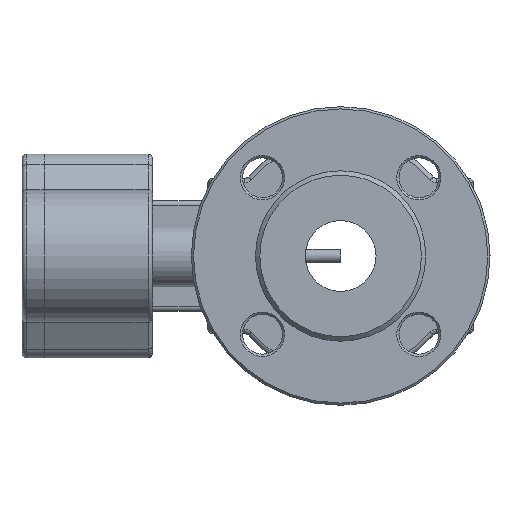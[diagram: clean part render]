
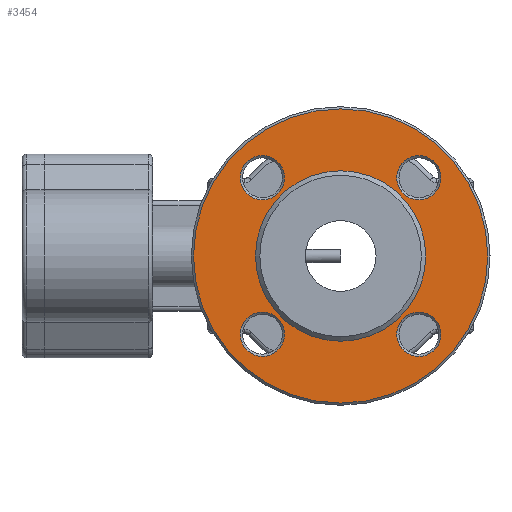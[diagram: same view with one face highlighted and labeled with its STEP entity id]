
A CAD part, left-side view. The second image highlights one B-rep face of the part: STEP entity #3454.
In plain terms, the highlighted planar face has unit normal (-1, 0, 0).
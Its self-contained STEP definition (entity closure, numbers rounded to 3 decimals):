
#3454=ADVANCED_FACE('',(#7071,#7073,#7075,#7077,#7079,#7081),#7083,.T.);
#7071=FACE_BOUND('',#7072,.T.);
#7072=EDGE_LOOP('',(#11609));
#7073=FACE_BOUND('',#7074,.T.);
#7074=EDGE_LOOP('',(#11610));
#7075=FACE_BOUND('',#7076,.T.);
#7076=EDGE_LOOP('',(#11611));
#7077=FACE_BOUND('',#7078,.T.);
#7078=EDGE_LOOP('',(#11612));
#7079=FACE_BOUND('',#7080,.T.);
#7080=EDGE_LOOP('',(#11613));
#7081=FACE_BOUND('',#7082,.T.);
#7082=EDGE_LOOP('',(#11614));
#7083=PLANE('',#7084);
#7084=AXIS2_PLACEMENT_3D('',#7085,#7086,#7087);
#7085=CARTESIAN_POINT('',(-98.,0.,0.));
#7086=DIRECTION('',(-1.,-0.,-0.));
#7087=DIRECTION('',(0.,1.,0.));
#11609=ORIENTED_EDGE('',*,*,#13020,.F.);
#11610=ORIENTED_EDGE('',*,*,#13021,.T.);
#11611=ORIENTED_EDGE('',*,*,#13022,.T.);
#11612=ORIENTED_EDGE('',*,*,#12946,.T.);
#11613=ORIENTED_EDGE('',*,*,#13023,.T.);
#11614=ORIENTED_EDGE('',*,*,#13024,.T.);
#12946=EDGE_CURVE('',#14817,#14817,#14818,.T.);
#13020=EDGE_CURVE('',#14941,#14941,#14942,.T.);
#13021=EDGE_CURVE('',#14943,#14943,#14944,.F.);
#13022=EDGE_CURVE('',#14945,#14945,#14946,.F.);
#13023=EDGE_CURVE('',#14947,#14947,#14948,.F.);
#13024=EDGE_CURVE('',#14949,#14949,#14950,.F.);
#14817=VERTEX_POINT('',#20021);
#14818=CIRCLE('',#20022,38.5);
#14941=VERTEX_POINT('',#20343);
#14942=CIRCLE('',#20344,66.5);
#14943=VERTEX_POINT('',#20348);
#14944=CIRCLE('',#20349,10.);
#14945=VERTEX_POINT('',#20353);
#14946=CIRCLE('',#20354,10.);
#14947=VERTEX_POINT('',#20358);
#14948=CIRCLE('',#20359,10.);
#14949=VERTEX_POINT('',#20363);
#14950=CIRCLE('',#20364,10.);
#20021=CARTESIAN_POINT('',(-98.,38.5,0.));
#20022=AXIS2_PLACEMENT_3D('',#20023,#20024,#20025);
#20023=CARTESIAN_POINT('',(-98.,0.,0.));
#20024=DIRECTION('',(1.,0.,0.));
#20025=DIRECTION('',(0.,1.,0.));
#20343=CARTESIAN_POINT('',(-98.,66.5,0.));
#20344=AXIS2_PLACEMENT_3D('',#20345,#20346,#20347);
#20345=CARTESIAN_POINT('',(-98.,0.,0.));
#20346=DIRECTION('',(1.,0.,0.));
#20347=DIRECTION('',(0.,1.,0.));
#20348=CARTESIAN_POINT('',(-98.,35.355,25.355));
#20349=AXIS2_PLACEMENT_3D('',#20350,#20351,#20352);
#20350=CARTESIAN_POINT('',(-98.,35.355,35.355));
#20351=DIRECTION('',(-1.,-0.,-0.));
#20352=DIRECTION('',(0.,0.,-1.));
#20353=CARTESIAN_POINT('',(-98.,-35.355,-45.355));
#20354=AXIS2_PLACEMENT_3D('',#20355,#20356,#20357);
#20355=CARTESIAN_POINT('',(-98.,-35.355,-35.355));
#20356=DIRECTION('',(-1.,-0.,-0.));
#20357=DIRECTION('',(0.,0.,-1.));
#20358=CARTESIAN_POINT('',(-98.,-35.355,25.355));
#20359=AXIS2_PLACEMENT_3D('',#20360,#20361,#20362);
#20360=CARTESIAN_POINT('',(-98.,-35.355,35.355));
#20361=DIRECTION('',(-1.,-0.,-0.));
#20362=DIRECTION('',(0.,0.,-1.));
#20363=CARTESIAN_POINT('',(-98.,35.355,-45.355));
#20364=AXIS2_PLACEMENT_3D('',#20365,#20366,#20367);
#20365=CARTESIAN_POINT('',(-98.,35.355,-35.355));
#20366=DIRECTION('',(-1.,-0.,-0.));
#20367=DIRECTION('',(0.,0.,-1.));
